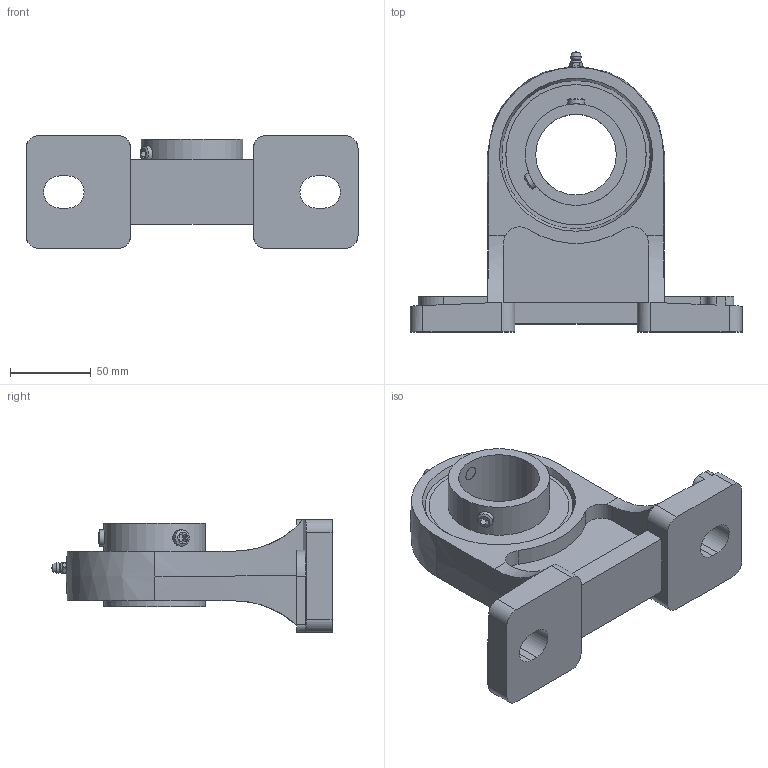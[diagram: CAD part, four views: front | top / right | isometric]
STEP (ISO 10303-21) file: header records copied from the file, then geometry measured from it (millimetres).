
FILE_DESCRIPTION((''),'2;1');
FILE_NAME('\\Ts-tgl068\j-cad-d-base\00.3DCADデータ作成フォルダ\01.ピロー形\UCPH200\UCPH210.stp','2014-04-18T08:30:47',('btec_1106_2'),(''),'Autodesk Inventor 2012','Autodesk Inventor 2012','');
FILE_SCHEMA(('AUTOMOTIVE_DESIGN { 1 0 10303 214 1 1 1 1 }'));
Length unit declared in the file: millimetre
Products named in the file (4): UCPH200; PH [番手=210 ul]; シリーズUC [番手=210 ul]; GU1
Assembly tree (3 placements, depth 2):
  UCPH200
    PH [番手=210 ul]
    シリーズUC [番手=210 ul]
    GU1
Bounding box: 206 x 173.79 x 70 mm (x, y, z)
Volume: 514621.5 mm3; surface area: 106380.7 mm2
Topology: 3 solids, 3 shells, 145 faces, 367 edges, 237 vertices
Faces by surface type: plane 76, cylinder 41, cone 17, bspline 5, sphere 4, torus 2
Full cylindrical faces by diameter (mm): 5.359 x1, 6.35 x1, 10 x2, 50 x1, 63 x2
Entity records: 4612 total; most frequent: CARTESIAN_POINT 1148, DIRECTION 682, ORIENTED_EDGE 674, EDGE_CURVE 337, AXIS2_PLACEMENT_3D 250, VERTEX_POINT 227, EDGE_LOOP 184, VECTOR 182
